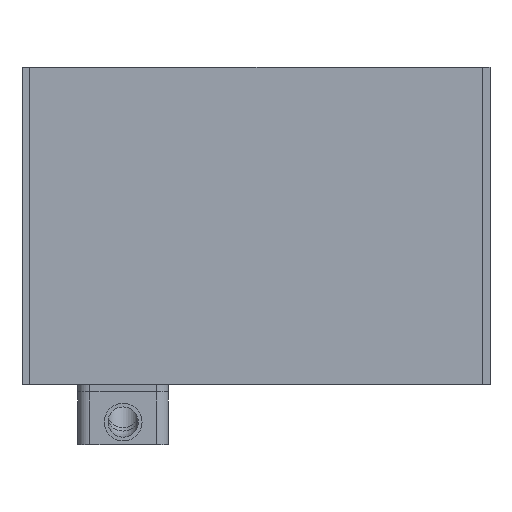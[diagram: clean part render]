
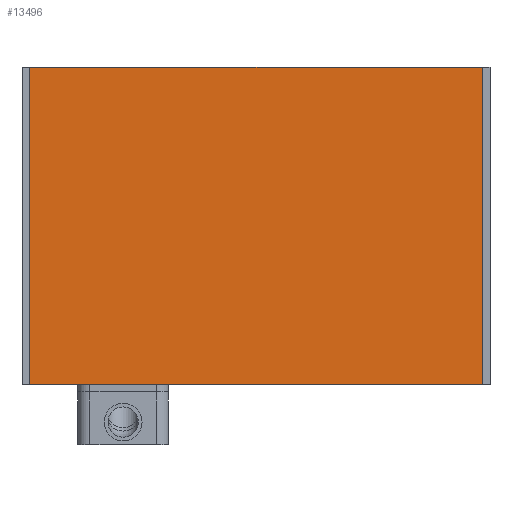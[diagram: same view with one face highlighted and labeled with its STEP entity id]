
A CAD part, front view. The second image highlights one B-rep face of the part: STEP entity #13496.
In plain terms, the highlighted planar face has unit normal (0, -1, 0) as drawn and (0, 0, -1) by its records, which use the part's own axes.
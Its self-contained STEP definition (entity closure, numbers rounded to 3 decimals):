
#1282=FACE_OUTER_BOUND('',#2015,.T.);
#2015=EDGE_LOOP('',(#12063,#12064,#12065,#12066));
#3836=LINE('',#22151,#5368);
#3840=LINE('',#22159,#5372);
#3843=LINE('',#22165,#5375);
#3846=LINE('',#22170,#5378);
#5368=VECTOR('',#18228,10.);
#5372=VECTOR('',#18234,10.);
#5375=VECTOR('',#18239,10.);
#5378=VECTOR('',#18244,10.);
#6595=VERTEX_POINT('',#22149);
#6596=VERTEX_POINT('',#22150);
#6599=VERTEX_POINT('',#22158);
#6601=VERTEX_POINT('',#22164);
#8429=EDGE_CURVE('',#6595,#6596,#3836,.T.);
#8433=EDGE_CURVE('',#6599,#6595,#3840,.T.);
#8436=EDGE_CURVE('',#6601,#6599,#3843,.T.);
#8439=EDGE_CURVE('',#6596,#6601,#3846,.T.);
#12063=ORIENTED_EDGE('',*,*,#8439,.F.);
#12064=ORIENTED_EDGE('',*,*,#8429,.F.);
#12065=ORIENTED_EDGE('',*,*,#8433,.F.);
#12066=ORIENTED_EDGE('',*,*,#8436,.F.);
#12848=PLANE('',#14768);
#13496=ADVANCED_FACE('',(#1282),#12848,.F.);
#14768=AXIS2_PLACEMENT_3D('',#22173,#18248,#18249);
#18228=DIRECTION('',(1.,0.,0.));
#18234=DIRECTION('',(0.,-1.,0.));
#18239=DIRECTION('',(-1.,0.,0.));
#18244=DIRECTION('',(0.,1.,0.));
#18248=DIRECTION('center_axis',(0.,0.,1.));
#18249=DIRECTION('ref_axis',(1.,0.,0.));
#22149=CARTESIAN_POINT('',(0.,-200.,0.));
#22150=CARTESIAN_POINT('',(300.,-200.,0.));
#22151=CARTESIAN_POINT('',(0.,-200.,0.));
#22158=CARTESIAN_POINT('',(0.,10.,0.));
#22159=CARTESIAN_POINT('',(0.,10.,0.));
#22164=CARTESIAN_POINT('',(300.,10.,0.));
#22165=CARTESIAN_POINT('',(300.,10.,0.));
#22170=CARTESIAN_POINT('',(300.,-200.,0.));
#22173=CARTESIAN_POINT('Origin',(150.,-95.,0.));
